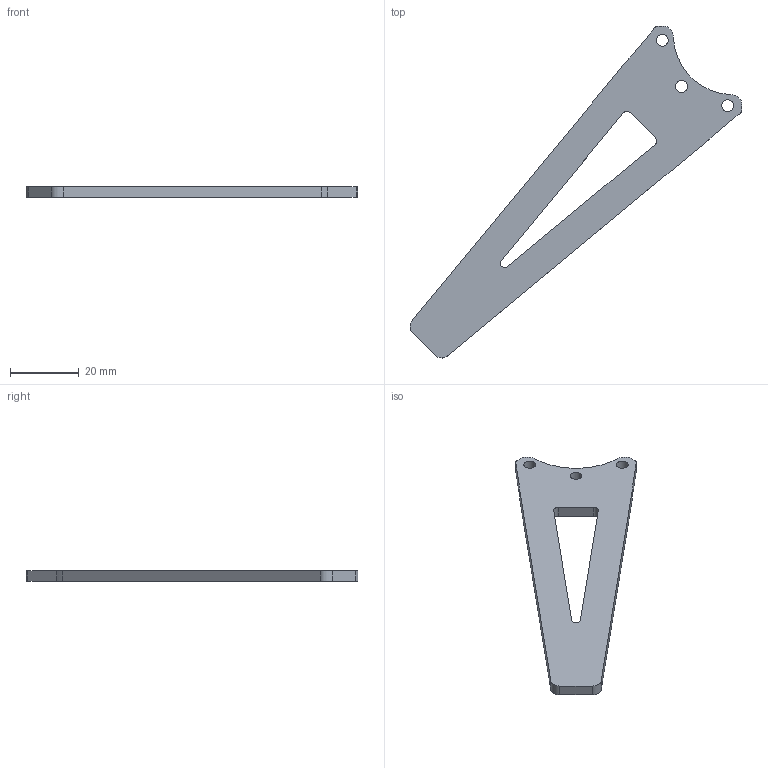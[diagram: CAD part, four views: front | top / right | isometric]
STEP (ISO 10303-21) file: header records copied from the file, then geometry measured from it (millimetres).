
FILE_DESCRIPTION(/* description */ (''),/* implementation_level */ '2;1');
FILE_NAME(/* name */ 'Lower_Link_Sheet v1.step',/* time_stamp */ '2025-10-21T12:10:55-07:00',/* author */ (''),/* organization */ (''),/* preprocessor_version */ 'ST-DEVELOPER v20.1',/* originating_system */ 'Autodesk Translation Framework v14.17.0.0',/* authorisation */ '');
FILE_SCHEMA (('AUTOMOTIVE_DESIGN { 1 0 10303 214 3 1 1 }'));
Length unit declared in the file: inch
Products named in the file (1): Lower_Link_Sheet
Bounding box: 96.69 x 96.69 x 3.17 mm (x, y, z)
Volume: 7301.7 mm3; surface area: 6003.4 mm2
Topology: 1 solids, 1 shells, 27 faces, 75 edges, 50 vertices
Faces by surface type: cylinder 15, plane 12
Full cylindrical faces by diameter (mm): 3.454 x3
Entity records: 930 total; most frequent: DIRECTION 161, CARTESIAN_POINT 153, ORIENTED_EDGE 150, EDGE_CURVE 75, AXIS2_PLACEMENT_3D 58, VERTEX_POINT 50, LINE 45, VECTOR 45
